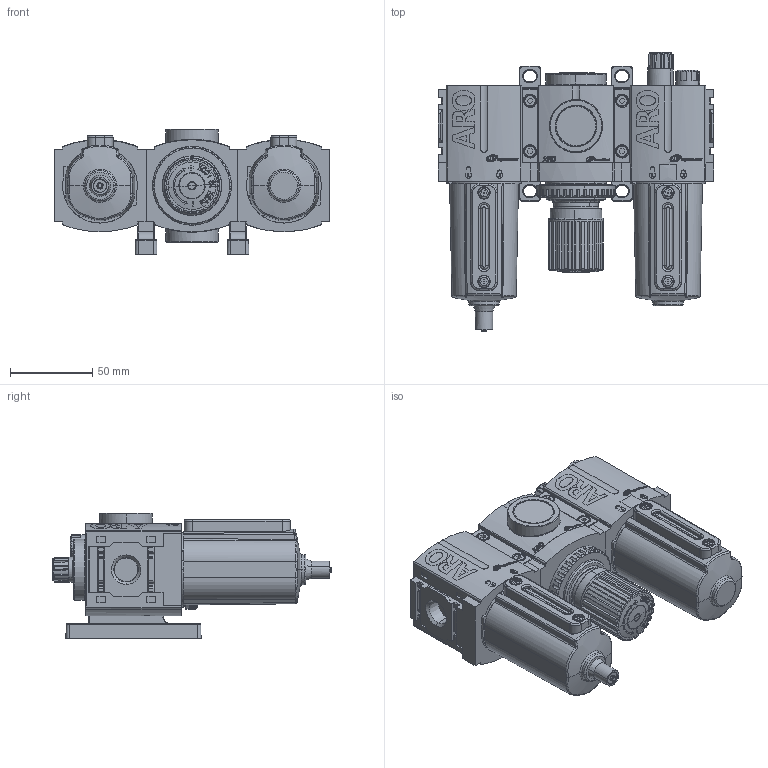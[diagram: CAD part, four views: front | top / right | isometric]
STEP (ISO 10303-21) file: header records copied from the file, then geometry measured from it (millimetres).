
FILE_DESCRIPTION(/* description */ (''),/* implementation_level */ '2;1');
FILE_NAME(/* name */ 'C382X1-81X_01',/* time_stamp */ '2009-02-04T11:59:25-05:00',/* author */ (''),/* organization */ (''),/* preprocessor_version */ 'ST-DEVELOPER v9',/* originating_system */ 'UGS - NX 4.0',/* authorisation */ '');
FILE_SCHEMA (('AUTOMOTIVE_DESIGN { 1 0 10303 214 1 1 1 1 }'));
Length unit declared in the file: inch
Products named in the file (1): szee0781jj8n
Bounding box: 168 x 170.48 x 76.35 mm (x, y, z)
Volume: 796046.2 mm3; surface area: 121425.4 mm2
Topology: 8 solids, 8 shells, 4885 faces, 12508 edges, 7968 vertices
Faces by surface type: plane 2588, cylinder 1233, bspline 305, extrusion 294, torus 212, cone 170, sphere 65, revolution 18
Full cylindrical faces by diameter (mm): 3.3 x1
Entity records: 215892 total; most frequent: CARTESIAN_POINT 75609, ORIENTED_EDGE 24926, DIRECTION 16818, EDGE_CURVE 12463, VERTEX_POINT 7971, VECTOR 6402, LINE 6108, B_SPLINE_CURVE_WITH_KNOTS 5378
